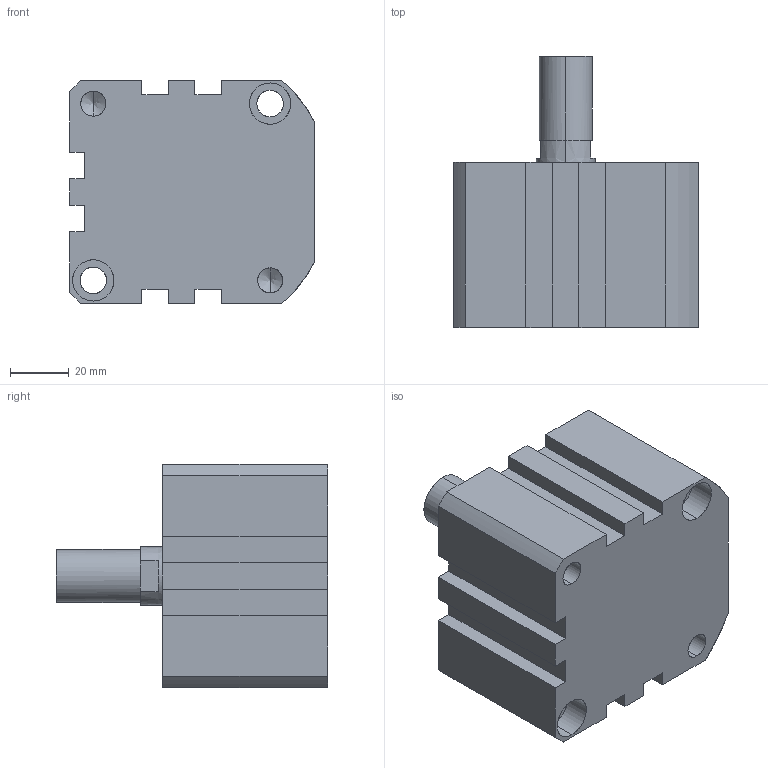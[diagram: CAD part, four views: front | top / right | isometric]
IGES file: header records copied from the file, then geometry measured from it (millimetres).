
Start section: SolidWorks IGES file using analytic representation for surfaces
Global section: file name: C:\Users\Toshiba\Desktop\XG#M2-63-10.IGS; native system: SolidWorks 2014; preprocessor: SolidWorks 2014; author: Toshiba; date: 160524.101916; units: millimetre
Bounding box: 83 x 92 x 76 mm (x, y, z)
Surface area: 41935.5 mm2 (no closed solid volume)
Topology: 0 solids, 0 shells, 114 faces, 1915 edges, 1903 vertices
Faces by surface type: revolution 64, bspline 50
